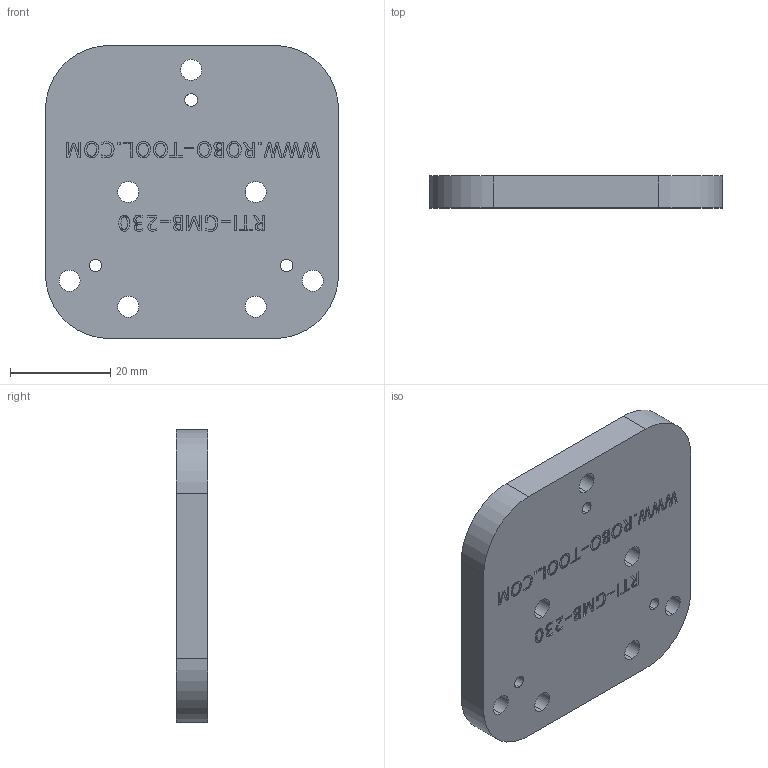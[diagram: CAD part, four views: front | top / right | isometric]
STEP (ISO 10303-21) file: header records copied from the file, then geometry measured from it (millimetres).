
FILE_DESCRIPTION (( 'STEP AP214' ), '1' );
FILE_NAME ('RTI-GMB-230.STEP', '2013-10-22T14:14:45', ( 'user' ), ( '' ), 'SwSTEP 2.0', 'SolidWorks 2009', '' );
FILE_SCHEMA (( 'AUTOMOTIVE_DESIGN' ));
Length unit declared in the file: inch
Products named in the file (1): RTI-GMB-230
Bounding box: 58.42 x 6.35 x 58.42 mm (x, y, z)
Volume: 20074.1 mm3; surface area: 8456.7 mm2
Topology: 1 solids, 1 shells, 351 faces, 927 edges, 618 vertices
Faces by surface type: plane 215, bspline 112, cylinder 24
Entity records: 21589 total; most frequent: CARTESIAN_POINT 9257, ORIENTED_EDGE 1854, DIRECTION 1231, EDGE_CURVE 927, VECTOR 655, LINE 655, VERTEX_POINT 618, EDGE_LOOP 411
